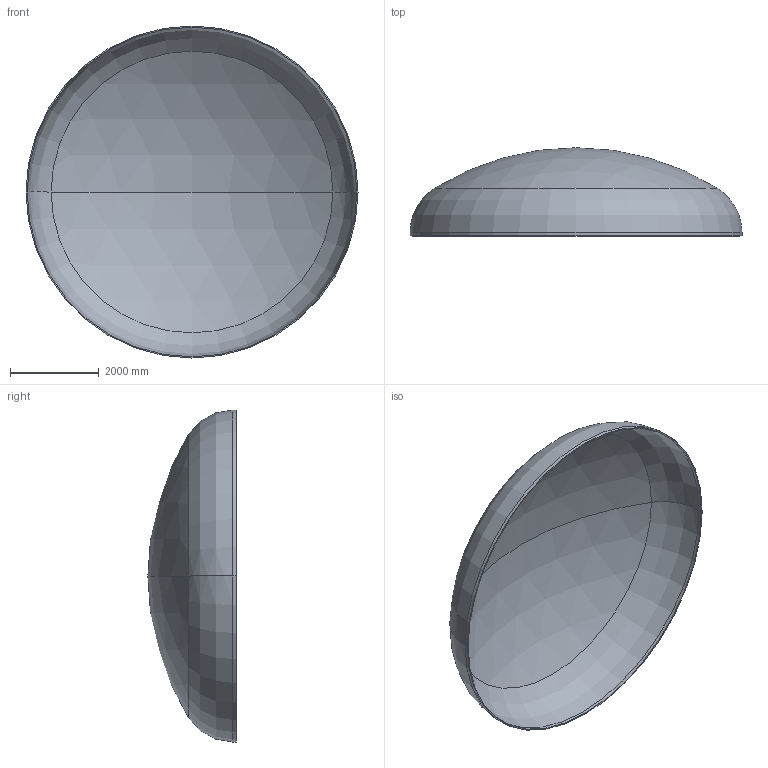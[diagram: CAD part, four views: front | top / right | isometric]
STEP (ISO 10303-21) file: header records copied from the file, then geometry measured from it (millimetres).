
FILE_DESCRIPTION (( 'STEP AP203' ), '1' );
FILE_NAME ('DIN 28013 Korbbogenform_-_Boden DIN 28013 - 7500 x 75 - I - s=25.step', '2016-07-04T10:52:29', ( '' ), ( '' ), 'SwSTEP 2.0', 'SolidWorks 2013', '' );
FILE_SCHEMA (( 'CONFIG_CONTROL_DESIGN' ));
Length unit declared in the file: millimetre
Products named in the file (1): DIN 28013 Korbbogenform_-_Boden DIN 28013 - 7500 x 75 - I - s=25
Bounding box: 7500 x 1992.8 x 7500 mm (x, y, z)
Volume: 1567071683.2 mm3; surface area: 125954077.9 mm2
Topology: 1 solids, 1 shells, 13 faces, 24 edges, 14 vertices
Faces by surface type: torus 4, cylinder 4, sphere 4, plane 1
Entity records: 407 total; most frequent: DIRECTION 72, CARTESIAN_POINT 52, ORIENTED_EDGE 48, AXIS2_PLACEMENT_3D 34, EDGE_CURVE 24, CIRCLE 20, VERTEX_POINT 14, EDGE_LOOP 14
